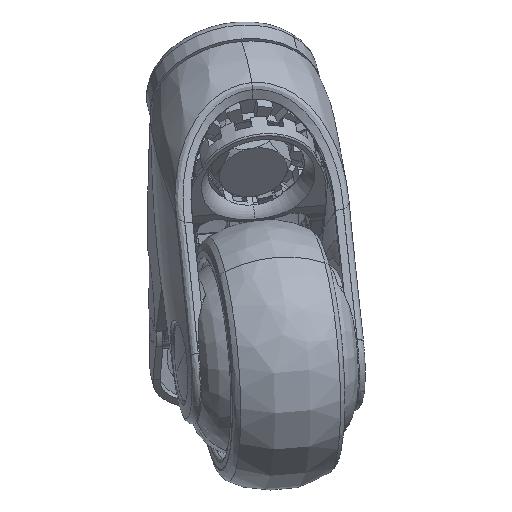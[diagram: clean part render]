
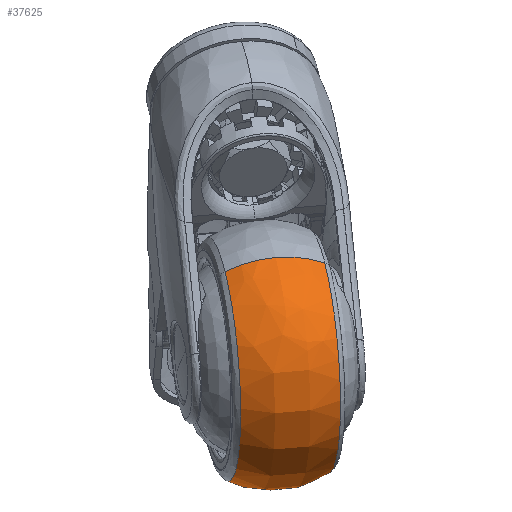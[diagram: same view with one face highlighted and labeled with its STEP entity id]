
A CAD part, left-side view. The second image highlights one B-rep face of the part: STEP entity #37625.
In plain terms, the highlighted free-form (B-spline) face has degree [3, 3] with [4, 4] control points.
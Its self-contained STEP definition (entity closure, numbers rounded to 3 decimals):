
#606 = DIRECTION ( 'NONE',  ( -0.162, 0.983, -0.083 ) ) ;
#3451 = DIRECTION ( 'NONE',  ( 0.694, 0.054, -0.718 ) ) ;
#5100 = CIRCLE ( 'NONE', #22992, 33.749 ) ;
#5861 = EDGE_CURVE ( 'NONE', #75620, #126954, #72886, .T. ) ;
#7773 = DIRECTION ( 'NONE',  ( -0.694, -0.054, 0.718 ) ) ;
#9919 = CARTESIAN_POINT ( 'NONE',  ( -32.503, 85.748, -21.336 ) ) ;
#11636 = CARTESIAN_POINT ( 'NONE',  ( -83.885, 109.641, 24.803 ) ) ;
#15965 = CARTESIAN_POINT ( 'NONE',  ( -32.503, 85.748, -21.336 ) ) ;
#16918 = CARTESIAN_POINT ( 'NONE',  ( -30.382, 94.752, -25.747 ) ) ;
#17395 = CARTESIAN_POINT ( 'NONE',  ( -84.377, 101.576, -70.31 ) ) ;
#17875 = CARTESIAN_POINT ( 'NONE',  ( -84.914, 81.269, -79.495 ) ) ;
#22769 = DIRECTION ( 'NONE',  ( -0.694, -0.054, 0.718 ) ) ;
#22992 = AXIS2_PLACEMENT_3D ( 'NONE', #121831, #606, #99034 ) ;
#24560 = AXIS2_PLACEMENT_3D ( 'NONE', #111834, #36377, #3451 ) ;
#27433 = CARTESIAN_POINT ( 'NONE',  ( -86.006, 100.637, 29.214 ) ) ;
#36377 = DIRECTION ( 'NONE',  ( 0.701, 0.173, 0.691 ) ) ;
#37625 = ADVANCED_FACE ( 'NONE', ( #41874 ), #95996, .T. ) ;
#38416 = CARTESIAN_POINT ( 'NONE',  ( -86.572, 91.347, -80.341 ) ) ;
#41874 = FACE_OUTER_BOUND ( 'NONE', #119216, .T. ) ;
#43183 = ORIENTED_EDGE ( 'NONE', *, *, #5861, .T. ) ;
#48001 = VERTEX_POINT ( 'NONE', #131279 ) ;
#49388 = CARTESIAN_POINT ( 'NONE',  ( -79.847, 74.042, -67.999 ) ) ;
#51480 = VERTEX_POINT ( 'NONE', #9919 ) ;
#55871 = EDGE_CURVE ( 'NONE', #51480, #48001, #5100, .T. ) ;
#66375 = CARTESIAN_POINT ( 'NONE',  ( -37.032, 113.282, -23.648 ) ) ;
#69497 = ORIENTED_EDGE ( 'NONE', *, *, #55871, .T. ) ;
#70461 = CARTESIAN_POINT ( 'NONE',  ( -32.04, 104.83, -26.593 ) ) ;
#72886 = CIRCLE ( 'NONE', #135336, 33.749 ) ;
#75620 = VERTEX_POINT ( 'NONE', #11636 ) ;
#81947 = CARTESIAN_POINT ( 'NONE',  ( -126.7, 70.401, -19.548 ) ) ;
#82375 = CARTESIAN_POINT ( 'NONE',  ( -60.459, 111.462, 0.578 ) ) ;
#83077 = CIRCLE ( 'NONE', #92992, 28. ) ;
#92417 = EDGE_CURVE ( 'NONE', #48001, #75620, #83077, .T. ) ;
#92908 = DIRECTION ( 'NONE',  ( 0.162, -0.983, 0.083 ) ) ;
#92945 = CARTESIAN_POINT ( 'NONE',  ( -79.356, 82.107, 27.114 ) ) ;
#92992 = AXIS2_PLACEMENT_3D ( 'NONE', #122536, #99238, #22769 ) ;
#94345 = CARTESIAN_POINT ( 'NONE',  ( -83.885, 109.641, 24.803 ) ) ;
#95996 =( BOUNDED_SURFACE ( )  B_SPLINE_SURFACE ( 3, 3, ( 
 ( #92945, #81947, #49388, #15965 ),
 ( #115263, #125291, #17875, #16918 ),
 ( #27433, #103892, #38416, #70461 ),
 ( #94345, #137695, #17395, #136283 ) ),
 .UNSPECIFIED., .F., .F., .F. ) 
 B_SPLINE_SURFACE_WITH_KNOTS ( ( 4, 4 ),
 ( 4, 4 ),
 ( 0., 1. ),
 ( 0., 1. ),
 .UNSPECIFIED. ) 
 GEOMETRIC_REPRESENTATION_ITEM ( )  RATIONAL_B_SPLINE_SURFACE ( (
 ( 1., 0.333, 0.333, 1.),
 ( 0.911, 0.304, 0.304, 0.911),
 ( 0.911, 0.304, 0.304, 0.911),
 ( 1., 0.333, 0.333, 1.) ) ) 
 REPRESENTATION_ITEM ( '' )  SURFACE ( )  );
#99034 = DIRECTION ( 'NONE',  ( -0.694, -0.054, 0.718 ) ) ;
#99238 = DIRECTION ( 'NONE',  ( -0.701, -0.173, -0.691 ) ) ;
#103892 = CARTESIAN_POINT ( 'NONE',  ( -140.539, 87.153, -24.534 ) ) ;
#111834 = CARTESIAN_POINT ( 'NONE',  ( -51.6, 98.207, -5.086 ) ) ;
#115263 = CARTESIAN_POINT ( 'NONE',  ( -84.348, 90.559, 30.06 ) ) ;
#117269 = CIRCLE ( 'NONE', #24560, 28. ) ;
#119216 = EDGE_LOOP ( 'NONE', ( #134496, #69497, #132852, #43183 ) ) ;
#121831 = CARTESIAN_POINT ( 'NONE',  ( -55.929, 83.927, 2.889 ) ) ;
#122536 = CARTESIAN_POINT ( 'NONE',  ( -64.788, 97.182, 8.553 ) ) ;
#125291 = CARTESIAN_POINT ( 'NONE',  ( -138.881, 77.075, -23.688 ) ) ;
#126954 = VERTEX_POINT ( 'NONE', #66375 ) ;
#131279 = CARTESIAN_POINT ( 'NONE',  ( -79.356, 82.107, 27.114 ) ) ;
#132852 = ORIENTED_EDGE ( 'NONE', *, *, #92417, .T. ) ;
#134496 = ORIENTED_EDGE ( 'NONE', *, *, #134974, .F. ) ;
#134974 = EDGE_CURVE ( 'NONE', #51480, #126954, #117269, .T. ) ;
#135336 = AXIS2_PLACEMENT_3D ( 'NONE', #82375, #92908, #7773 ) ;
#136283 = CARTESIAN_POINT ( 'NONE',  ( -37.032, 113.282, -23.648 ) ) ;
#137695 = CARTESIAN_POINT ( 'NONE',  ( -131.23, 97.935, -21.86 ) ) ;
